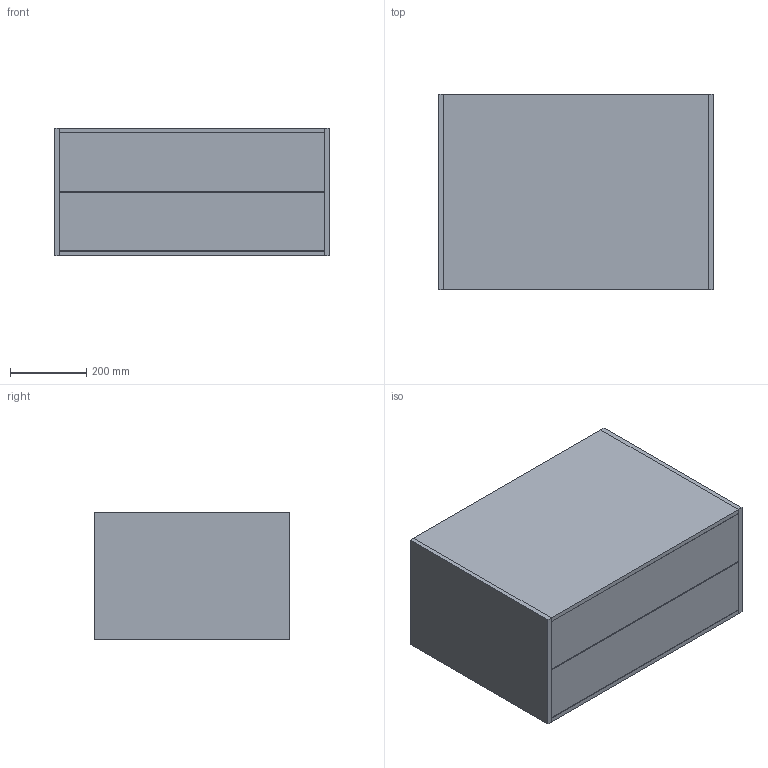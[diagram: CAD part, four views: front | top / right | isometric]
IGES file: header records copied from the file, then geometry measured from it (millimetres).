
Start section: Data from Parasolid IGES Translator 19.0.9, Copyright(c) 2006 Siemens PL M Software. All Rights Reserved.
Global section: file name: noorth-FJ-H 33,5 D 51,2 W 72_2012.igs; native system: By Siemens PLM Incorporated; preprocessor: XPlus GENERIC/IGES 19.0.9; author: Noname; organization: Noname; date: 20200507.120410; units: metre
Bounding box: 720 x 512 x 335 mm (x, y, z)
Volume: 17351346 mm3; surface area: 3136926 mm2
Topology: 7 solids, 7 shells, 42 faces, 84 edges, 56 vertices
Faces by surface type: plane 42
